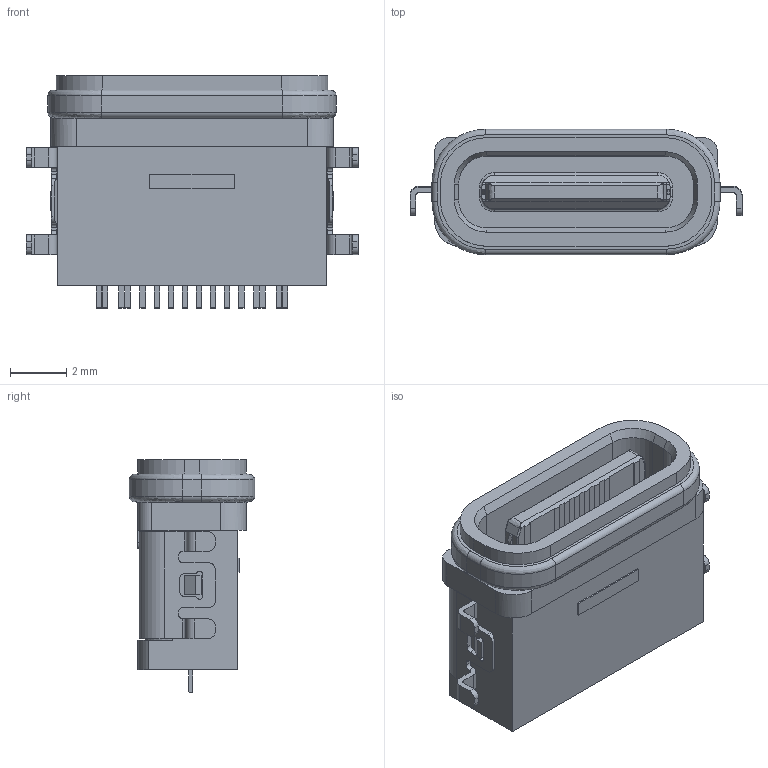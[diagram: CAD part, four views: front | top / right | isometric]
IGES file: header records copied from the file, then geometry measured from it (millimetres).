
Start section:  PTC IGES file: 018.igs
Global section: file name: 018.igs; native system: Creo Parametric by PTC Inc.; preprocessor: 2019080; author: Administrator; organization: Unknown; date: 20230418.144002; units: millimetre
Bounding box: 11.8 x 4.46 x 8.25 mm (x, y, z)
Surface area: 503.8 mm2 (no closed solid volume)
Topology: 0 solids, 0 shells, 524 faces, 2832 edges, 2832 vertices
Faces by surface type: bspline 342, revolution 182
